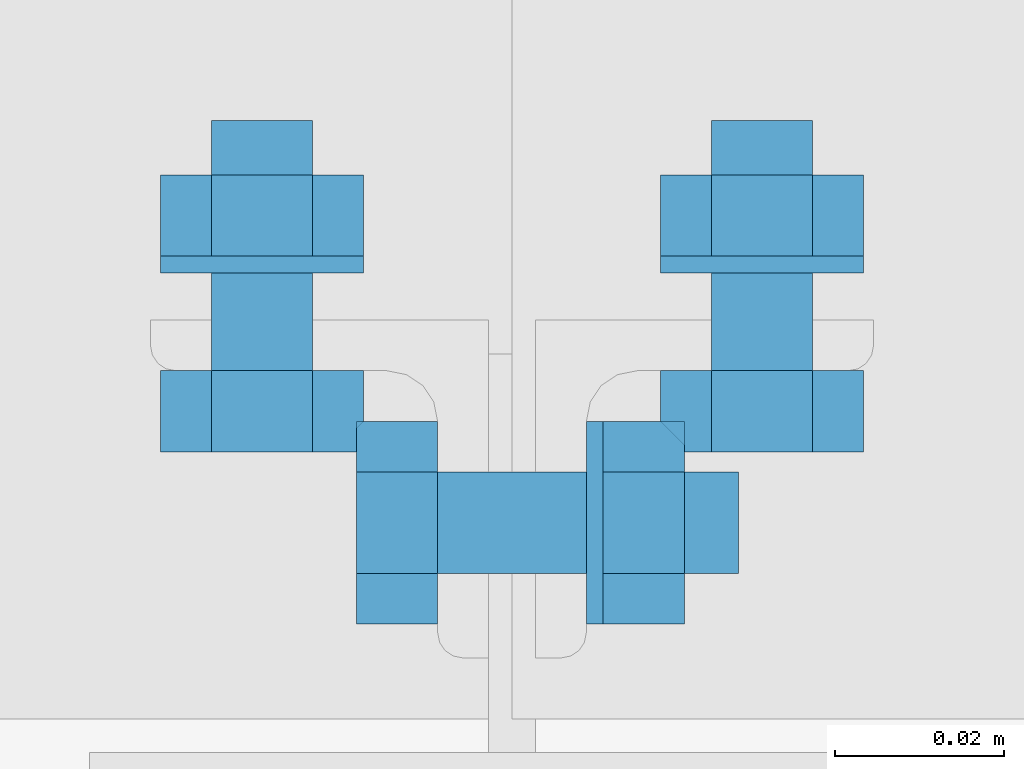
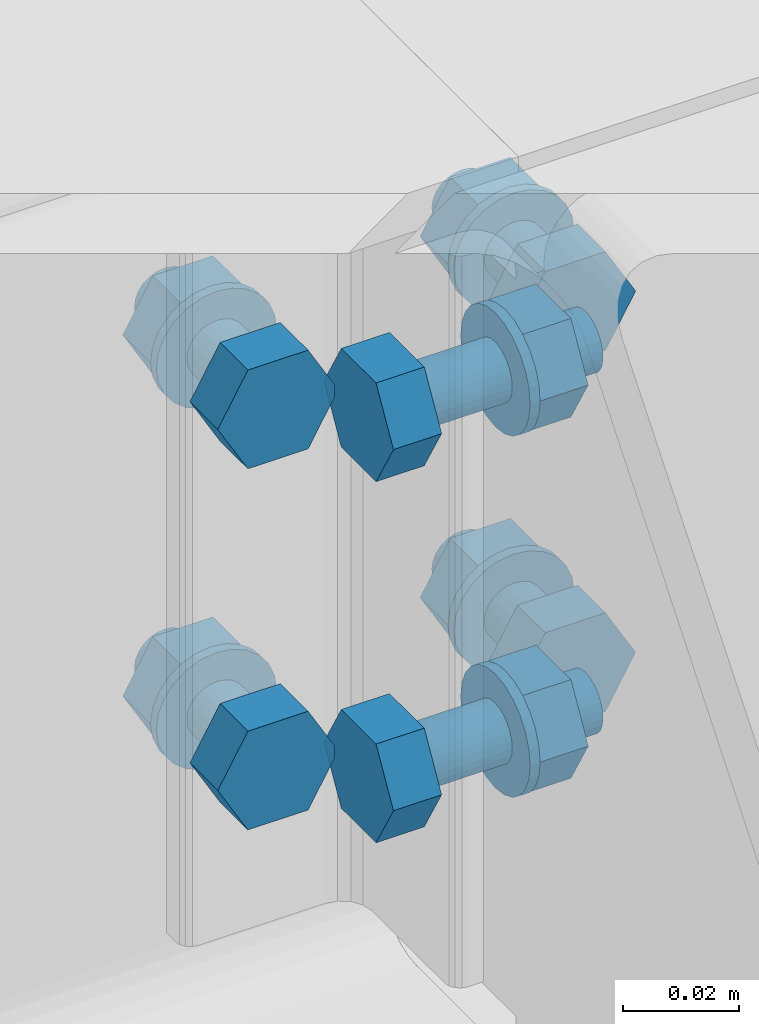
# One storey, part 67 of 84: 32 mechanical fasteners.
"""IFC4 building model written with IfcOpenShell, lengths in metres."""

from ifc_helpers import new_model, si_unit, frame, origin_with_axes, place, context, project, spatial, polyline, outline, extrude, type_object, element, save


model = new_model("IFC4")

# Units and contexts
model_context = context("Model", 3, precision=1e-05, world=origin_with_axes())
ifc_project = project(units=[si_unit("LENGTHUNIT", "METRE"), si_unit("AREAUNIT", "SQUARE_METRE"), si_unit("VOLUMEUNIT", "CUBIC_METRE"), si_unit("MASSUNIT", "GRAM", prefix="KILO"), si_unit("TIMEUNIT", "SECOND"), si_unit("PLANEANGLEUNIT", "RADIAN"), si_unit("SOLIDANGLEUNIT", "STERADIAN"), si_unit("THERMODYNAMICTEMPERATUREUNIT", "DEGREE_CELSIUS")], contexts=[model_context])

# Site, building, storey
placement_1 = place(None, origin_with_axes())
site = spatial("IfcSite", under=ifc_project, at=placement_1, Name="Italia", CompositionType="ELEMENT")
building = spatial("IfcBuilding", under=site, at=placement_1, Name="Tettoia", CompositionType="ELEMENT")
storey_placement = place(None, frame((0.0, 0.0, 4.199999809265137), z_axis=(0.0, 0.0, 1.0), x_axis=(1.0, 0.0, 0.0)))
storey = spatial("IfcBuildingStorey", under=building, at=storey_placement, Name="Storey 1", CompositionType="ELEMENT", Elevation=4.199999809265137)

# Mechanical fasteners
mechanical_fastener_type_1 = type_object("IfcMechanicalFastenerType", Name="Collegamento -016_0109", PredefinedType="BOLT")
placement_2 = place(placement_1, origin_with_axes())
mechanical_fastener_1_placement = place(placement_2, origin_with_axes())
element("IfcMechanicalFastener", 1, at=mechanical_fastener_1_placement, inside=storey, type_object=mechanical_fastener_type_1, Name="Collegamento -016_0109", NominalDiameter=0.0119997, context=model_context, shape_type="SweptSolid", body=[
    extrude(outline(polyline([(0.0, 0.0), (-0.0120001, 0.0), (-0.0179996, 0.0103922), (-0.0120001, 0.0207844), (0.0, 0.0207844), (0.00600052, 0.0103922), (0.0, 0.0)])), frame((8.2812, 13.9172, 4.25161), z_axis=(-1.0, 0.0, 0.0), x_axis=(0.0, -1.0, 0.0)), (0.0, 0.0, 1.0), 0.00960064),
])
mechanical_fastener_type_2 = type_object("IfcMechanicalFastenerType", Name="Collegamento -016_0109", PredefinedType="BOLT")
mechanical_fastener_2_placement = place(placement_2, origin_with_axes())
element("IfcMechanicalFastener", 2, at=mechanical_fastener_2_placement, inside=storey, type_object=mechanical_fastener_type_2, Name="Collegamento -016_0109", NominalDiameter=0.012, context=model_context, shape_type="SweptSolid", body=[
    extrude(outline(polyline([(0.0, 0.0), (-0.000204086, -0.00155306), (-0.000802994, -0.00299978), (-0.00175667, -0.00424242), (-0.00299931, -0.00519609), (-0.00444698, -0.00579548), (-0.00599957, -0.00600004), (-0.00755215, -0.00579548), (-0.00899982, -0.00519609), (-0.0102425, -0.00424242), (-0.0111961, -0.00299978), (-0.011795, -0.00155306), (-0.0119991, 0.0), (-0.011795, 0.00155306), (-0.0111961, 0.00299978), (-0.0102425, 0.00424242), (-0.00899982, 0.00519609), (-0.00755215, 0.00579548), (-0.00599957, 0.00600004), (-0.00444698, 0.00579548), (-0.00299931, 0.00519609), (-0.00175667, 0.00424242), (-0.000802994, 0.00299978), (-0.000204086, 0.00155306), (0.0, 0.0)])), frame((8.3168, 13.9172, 4.262), z_axis=(-1.0, 0.0, 0.0), x_axis=(0.0, -1.0, 0.0)), (0.0, 0.0, 1.0), 0.0355997),
])
mechanical_fastener_type_3 = type_object("IfcMechanicalFastenerType", Name="Collegamento -016_0109", PredefinedType="BOLT")
mechanical_fastener_3_placement = place(placement_2, origin_with_axes())
element("IfcMechanicalFastener", 3, at=mechanical_fastener_3_placement, inside=storey, type_object=mechanical_fastener_type_3, Name="Collegamento -016_0109", NominalDiameter=0.0119997, context=model_context, shape_type="SweptSolid", body=[
    extrude(outline(polyline([(0.0, 0.0), (-0.0120001, 0.0), (-0.0179996, 0.0103922), (-0.0120001, 0.0207844), (0.0, 0.0207844), (0.00600052, 0.0103922), (0.0, 0.0)])), frame((8.3104, 13.9172, 4.25161), z_axis=(-1.0, 0.0, 0.0), x_axis=(0.0, -1.0, 0.0)), (0.0, 0.0, 1.0), 0.00959969),
])
mechanical_fastener_type_4 = type_object("IfcMechanicalFastenerType", Name="Collegamento -016_0109", PredefinedType="BOLT")
mechanical_fastener_4_placement = place(placement_2, origin_with_axes())
element("IfcMechanicalFastener", 4, at=mechanical_fastener_4_placement, inside=storey, type_object=mechanical_fastener_type_4, Name="Collegamento -016_0109", NominalDiameter=0.024, context=model_context, shape_type="SweptSolid", body=[
    extrude(outline(polyline([(0.0, 0.0), (-0.000409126, -0.00310564), (-0.00160789, -0.00600004), (-0.00351524, -0.00848532), (-0.00600052, -0.0103922), (-0.00889397, -0.011591), (-0.0120001, -0.0120001), (-0.0151062, -0.011591), (-0.0179996, -0.0103922), (-0.0204849, -0.00848532), (-0.0223923, -0.00600004), (-0.023591, -0.00310564), (-0.0240002, 0.0), (-0.023591, 0.00310564), (-0.0223923, 0.00600004), (-0.0204849, 0.00848532), (-0.0179996, 0.0103922), (-0.0151062, 0.011591), (-0.0120001, 0.0120001), (-0.00889397, 0.011591), (-0.00600052, 0.0103922), (-0.00351524, 0.00848532), (-0.00160789, 0.00600004), (-0.000409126, 0.00310564), (0.0, 0.0)])), frame((8.3008, 13.9112, 4.262), z_axis=(-1.0, 0.0, 0.0), x_axis=(0.0, -1.0, 0.0)), (0.0, 0.0, 1.0), 0.00200081),
])
mechanical_fastener_type_5 = type_object("IfcMechanicalFastenerType", Name="Collegamento -016_0109", PredefinedType="BOLT")
mechanical_fastener_5_placement = place(placement_2, origin_with_axes())
element("IfcMechanicalFastener", 5, at=mechanical_fastener_5_placement, inside=storey, type_object=mechanical_fastener_type_5, Name="Collegamento -016_0109", NominalDiameter=0.0119997, context=model_context, shape_type="SweptSolid", body=[
    extrude(outline(polyline([(0.0, 0.0), (-0.0120001, 0.0), (-0.0179996, 0.0103922), (-0.0120001, 0.0207844), (0.0, 0.0207844), (0.00600052, 0.0103922), (0.0, 0.0)])), frame((8.2812, 13.9172, 4.32761), z_axis=(-1.0, 0.0, 0.0), x_axis=(0.0, -1.0, 0.0)), (0.0, 0.0, 1.0), 0.00960064),
])
mechanical_fastener_type_6 = type_object("IfcMechanicalFastenerType", Name="Collegamento -016_0109", PredefinedType="BOLT")
mechanical_fastener_6_placement = place(placement_2, origin_with_axes())
element("IfcMechanicalFastener", 6, at=mechanical_fastener_6_placement, inside=storey, type_object=mechanical_fastener_type_6, Name="Collegamento -016_0109", NominalDiameter=0.012, context=model_context, shape_type="SweptSolid", body=[
    extrude(outline(polyline([(0.0, 0.0), (-0.000204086, -0.00155306), (-0.000802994, -0.00299978), (-0.00175667, -0.00424242), (-0.00299931, -0.00519609), (-0.00444698, -0.00579548), (-0.00599957, -0.00600004), (-0.00755215, -0.00579548), (-0.00899982, -0.00519609), (-0.0102425, -0.00424242), (-0.0111961, -0.00299978), (-0.011795, -0.00155306), (-0.0119991, 0.0), (-0.011795, 0.00155306), (-0.0111961, 0.00299978), (-0.0102425, 0.00424242), (-0.00899982, 0.00519609), (-0.00755215, 0.00579548), (-0.00599957, 0.00600004), (-0.00444698, 0.00579548), (-0.00299931, 0.00519609), (-0.00175667, 0.00424242), (-0.000802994, 0.00299978), (-0.000204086, 0.00155306), (0.0, 0.0)])), frame((8.3168, 13.9172, 4.338), z_axis=(-1.0, 0.0, 0.0), x_axis=(0.0, -1.0, 0.0)), (0.0, 0.0, 1.0), 0.0355997),
])
mechanical_fastener_type_7 = type_object("IfcMechanicalFastenerType", Name="Collegamento -016_0109", PredefinedType="BOLT")
mechanical_fastener_7_placement = place(placement_2, origin_with_axes())
element("IfcMechanicalFastener", 7, at=mechanical_fastener_7_placement, inside=storey, type_object=mechanical_fastener_type_7, Name="Collegamento -016_0109", NominalDiameter=0.0119997, context=model_context, shape_type="SweptSolid", body=[
    extrude(outline(polyline([(0.0, 0.0), (-0.0120001, 0.0), (-0.0179996, 0.0103922), (-0.0120001, 0.0207844), (0.0, 0.0207844), (0.00600052, 0.0103922), (0.0, 0.0)])), frame((8.3104, 13.9172, 4.32761), z_axis=(-1.0, 0.0, 0.0), x_axis=(0.0, -1.0, 0.0)), (0.0, 0.0, 1.0), 0.00959969),
])
mechanical_fastener_type_8 = type_object("IfcMechanicalFastenerType", Name="Collegamento -016_0109", PredefinedType="BOLT")
mechanical_fastener_8_placement = place(placement_2, origin_with_axes())
element("IfcMechanicalFastener", 8, at=mechanical_fastener_8_placement, inside=storey, type_object=mechanical_fastener_type_8, Name="Collegamento -016_0109", NominalDiameter=0.024, context=model_context, shape_type="SweptSolid", body=[
    extrude(outline(polyline([(0.0, 0.0), (-0.000409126, -0.00310564), (-0.00160789, -0.00600004), (-0.00351524, -0.00848532), (-0.00600052, -0.0103922), (-0.00889397, -0.011591), (-0.0120001, -0.0120001), (-0.0151062, -0.011591), (-0.0179996, -0.0103922), (-0.0204849, -0.00848532), (-0.0223923, -0.00600004), (-0.023591, -0.00310564), (-0.0240002, 0.0), (-0.023591, 0.00310564), (-0.0223923, 0.00600004), (-0.0204849, 0.00848532), (-0.0179996, 0.0103922), (-0.0151062, 0.011591), (-0.0120001, 0.0120001), (-0.00889397, 0.011591), (-0.00600052, 0.0103922), (-0.00351524, 0.00848532), (-0.00160789, 0.00600004), (-0.000409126, 0.00310564), (0.0, 0.0)])), frame((8.3008, 13.9112, 4.338), z_axis=(-1.0, 0.0, 0.0), x_axis=(0.0, -1.0, 0.0)), (0.0, 0.0, 1.0), 0.00200081),
])
mechanical_fastener_type_9 = type_object("IfcMechanicalFastenerType", Name="Collegamento -016_0109", PredefinedType="BOLT")
mechanical_fastener_9_placement = place(placement_2, origin_with_axes())
element("IfcMechanicalFastener", 9, at=mechanical_fastener_9_placement, inside=storey, type_object=mechanical_fastener_type_9, Name="Collegamento -016_0109", NominalDiameter=0.0119997, context=model_context, shape_type="SweptSolid", body=[
    extrude(outline(polyline([(0.0, 0.0), (-0.0120001, 0.0), (-0.0179996, 0.0103922), (-0.0120001, 0.0207844), (0.0, 0.0207844), (0.00600052, 0.0103922), (0.0, 0.0)])), frame((8.2812, 13.9172, 4.25161), z_axis=(-1.0, 0.0, 0.0), x_axis=(0.0, -1.0, 0.0)), (0.0, 0.0, 1.0), 0.00960064),
])
mechanical_fastener_type_10 = type_object("IfcMechanicalFastenerType", Name="Collegamento -016_0109", PredefinedType="BOLT")
mechanical_fastener_10_placement = place(placement_2, origin_with_axes())
element("IfcMechanicalFastener", 10, at=mechanical_fastener_10_placement, inside=storey, type_object=mechanical_fastener_type_10, Name="Collegamento -016_0109", NominalDiameter=0.012, context=model_context, shape_type="SweptSolid", body=[
    extrude(outline(polyline([(0.0, 0.0), (-0.000204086, -0.00155306), (-0.000802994, -0.00299978), (-0.00175667, -0.00424242), (-0.00299931, -0.00519609), (-0.00444698, -0.00579548), (-0.00599957, -0.00600004), (-0.00755215, -0.00579548), (-0.00899982, -0.00519609), (-0.0102425, -0.00424242), (-0.0111961, -0.00299978), (-0.011795, -0.00155306), (-0.0119991, 0.0), (-0.011795, 0.00155306), (-0.0111961, 0.00299978), (-0.0102425, 0.00424242), (-0.00899982, 0.00519609), (-0.00755215, 0.00579548), (-0.00599957, 0.00600004), (-0.00444698, 0.00579548), (-0.00299931, 0.00519609), (-0.00175667, 0.00424242), (-0.000802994, 0.00299978), (-0.000204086, 0.00155306), (0.0, 0.0)])), frame((8.3168, 13.9172, 4.262), z_axis=(-1.0, 0.0, 0.0), x_axis=(0.0, -1.0, 0.0)), (0.0, 0.0, 1.0), 0.0355997),
])
mechanical_fastener_type_11 = type_object("IfcMechanicalFastenerType", Name="Collegamento -016_0109", PredefinedType="BOLT")
mechanical_fastener_11_placement = place(placement_2, origin_with_axes())
element("IfcMechanicalFastener", 11, at=mechanical_fastener_11_placement, inside=storey, type_object=mechanical_fastener_type_11, Name="Collegamento -016_0109", NominalDiameter=0.0119997, context=model_context, shape_type="SweptSolid", body=[
    extrude(outline(polyline([(0.0, 0.0), (-0.0120001, 0.0), (-0.0179996, 0.0103922), (-0.0120001, 0.0207844), (0.0, 0.0207844), (0.00600052, 0.0103922), (0.0, 0.0)])), frame((8.3104, 13.9172, 4.25161), z_axis=(-1.0, 0.0, 0.0), x_axis=(0.0, -1.0, 0.0)), (0.0, 0.0, 1.0), 0.00959969),
])
mechanical_fastener_type_12 = type_object("IfcMechanicalFastenerType", Name="Collegamento -016_0109", PredefinedType="BOLT")
mechanical_fastener_12_placement = place(placement_2, origin_with_axes())
element("IfcMechanicalFastener", 12, at=mechanical_fastener_12_placement, inside=storey, type_object=mechanical_fastener_type_12, Name="Collegamento -016_0109", NominalDiameter=0.024, context=model_context, shape_type="SweptSolid", body=[
    extrude(outline(polyline([(0.0, 0.0), (-0.000409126, -0.00310564), (-0.00160789, -0.00600004), (-0.00351524, -0.00848532), (-0.00600052, -0.0103922), (-0.00889397, -0.011591), (-0.0120001, -0.0120001), (-0.0151062, -0.011591), (-0.0179996, -0.0103922), (-0.0204849, -0.00848532), (-0.0223923, -0.00600004), (-0.023591, -0.00310564), (-0.0240002, 0.0), (-0.023591, 0.00310564), (-0.0223923, 0.00600004), (-0.0204849, 0.00848532), (-0.0179996, 0.0103922), (-0.0151062, 0.011591), (-0.0120001, 0.0120001), (-0.00889397, 0.011591), (-0.00600052, 0.0103922), (-0.00351524, 0.00848532), (-0.00160789, 0.00600004), (-0.000409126, 0.00310564), (0.0, 0.0)])), frame((8.3008, 13.9112, 4.262), z_axis=(-1.0, 0.0, 0.0), x_axis=(0.0, -1.0, 0.0)), (0.0, 0.0, 1.0), 0.00200081),
])
mechanical_fastener_type_13 = type_object("IfcMechanicalFastenerType", Name="Collegamento -016_0109", PredefinedType="BOLT")
mechanical_fastener_13_placement = place(placement_2, origin_with_axes())
element("IfcMechanicalFastener", 13, at=mechanical_fastener_13_placement, inside=storey, type_object=mechanical_fastener_type_13, Name="Collegamento -016_0109", NominalDiameter=0.0119997, context=model_context, shape_type="SweptSolid", body=[
    extrude(outline(polyline([(0.0, 0.0), (-0.0120001, 0.0), (-0.0179996, 0.0103922), (-0.0120001, 0.0207844), (0.0, 0.0207844), (0.00600052, 0.0103922), (0.0, 0.0)])), frame((8.2812, 13.9172, 4.32761), z_axis=(-1.0, 0.0, 0.0), x_axis=(0.0, -1.0, 0.0)), (0.0, 0.0, 1.0), 0.00960064),
])
mechanical_fastener_type_14 = type_object("IfcMechanicalFastenerType", Name="Collegamento -016_0109", PredefinedType="BOLT")
mechanical_fastener_14_placement = place(placement_2, origin_with_axes())
element("IfcMechanicalFastener", 14, at=mechanical_fastener_14_placement, inside=storey, type_object=mechanical_fastener_type_14, Name="Collegamento -016_0109", NominalDiameter=0.012, context=model_context, shape_type="SweptSolid", body=[
    extrude(outline(polyline([(0.0, 0.0), (-0.000204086, -0.00155306), (-0.000802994, -0.00299978), (-0.00175667, -0.00424242), (-0.00299931, -0.00519609), (-0.00444698, -0.00579548), (-0.00599957, -0.00600004), (-0.00755215, -0.00579548), (-0.00899982, -0.00519609), (-0.0102425, -0.00424242), (-0.0111961, -0.00299978), (-0.011795, -0.00155306), (-0.0119991, 0.0), (-0.011795, 0.00155306), (-0.0111961, 0.00299978), (-0.0102425, 0.00424242), (-0.00899982, 0.00519609), (-0.00755215, 0.00579548), (-0.00599957, 0.00600004), (-0.00444698, 0.00579548), (-0.00299931, 0.00519609), (-0.00175667, 0.00424242), (-0.000802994, 0.00299978), (-0.000204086, 0.00155306), (0.0, 0.0)])), frame((8.3168, 13.9172, 4.338), z_axis=(-1.0, 0.0, 0.0), x_axis=(0.0, -1.0, 0.0)), (0.0, 0.0, 1.0), 0.0355997),
])
mechanical_fastener_type_15 = type_object("IfcMechanicalFastenerType", Name="Collegamento -016_0109", PredefinedType="BOLT")
mechanical_fastener_15_placement = place(placement_2, origin_with_axes())
element("IfcMechanicalFastener", 15, at=mechanical_fastener_15_placement, inside=storey, type_object=mechanical_fastener_type_15, Name="Collegamento -016_0109", NominalDiameter=0.0119997, context=model_context, shape_type="SweptSolid", body=[
    extrude(outline(polyline([(0.0, 0.0), (-0.0120001, 0.0), (-0.0179996, 0.0103922), (-0.0120001, 0.0207844), (0.0, 0.0207844), (0.00600052, 0.0103922), (0.0, 0.0)])), frame((8.3104, 13.9172, 4.32761), z_axis=(-1.0, 0.0, 0.0), x_axis=(0.0, -1.0, 0.0)), (0.0, 0.0, 1.0), 0.00959969),
])
mechanical_fastener_type_16 = type_object("IfcMechanicalFastenerType", Name="Collegamento -016_0109", PredefinedType="BOLT")
mechanical_fastener_16_placement = place(placement_2, origin_with_axes())
element("IfcMechanicalFastener", 16, at=mechanical_fastener_16_placement, inside=storey, type_object=mechanical_fastener_type_16, Name="Collegamento -016_0109", NominalDiameter=0.024, context=model_context, shape_type="SweptSolid", body=[
    extrude(outline(polyline([(0.0, 0.0), (-0.000409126, -0.00310564), (-0.00160789, -0.00600004), (-0.00351524, -0.00848532), (-0.00600052, -0.0103922), (-0.00889397, -0.011591), (-0.0120001, -0.0120001), (-0.0151062, -0.011591), (-0.0179996, -0.0103922), (-0.0204849, -0.00848532), (-0.0223923, -0.00600004), (-0.023591, -0.00310564), (-0.0240002, 0.0), (-0.023591, 0.00310564), (-0.0223923, 0.00600004), (-0.0204849, 0.00848532), (-0.0179996, 0.0103922), (-0.0151062, 0.011591), (-0.0120001, 0.0120001), (-0.00889397, 0.011591), (-0.00600052, 0.0103922), (-0.00351524, 0.00848532), (-0.00160789, 0.00600004), (-0.000409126, 0.00310564), (0.0, 0.0)])), frame((8.3008, 13.9112, 4.338), z_axis=(-1.0, 0.0, 0.0), x_axis=(0.0, -1.0, 0.0)), (0.0, 0.0, 1.0), 0.00200081),
])
mechanical_fastener_type_17 = type_object("IfcMechanicalFastenerType", Name="Collegamento -016_0109", PredefinedType="BOLT")
mechanical_fastener_17_placement = place(placement_2, origin_with_axes())
element("IfcMechanicalFastener", 17, at=mechanical_fastener_17_placement, inside=storey, type_object=mechanical_fastener_type_17, Name="Collegamento -016_0109", NominalDiameter=0.0119997, context=model_context, shape_type="SweptSolid", body=[
    extrude(outline(polyline([(0.0, 0.0), (-0.0120001, 0.0), (-0.0179996, 0.0103922), (-0.0120001, 0.0207844), (0.0, 0.0207844), (0.00600052, 0.0103922), (0.0, 0.0)])), frame((8.3256, 13.9412, 4.25161), z_axis=(0.0, -1.0, 0.0), x_axis=(1.0, 0.0, 0.0)), (0.0, 0.0, 1.0), 0.00960064),
])
mechanical_fastener_type_18 = type_object("IfcMechanicalFastenerType", Name="Collegamento -016_0109", PredefinedType="BOLT")
mechanical_fastener_18_placement = place(placement_2, origin_with_axes())
element("IfcMechanicalFastener", 18, at=mechanical_fastener_18_placement, inside=storey, type_object=mechanical_fastener_type_18, Name="Collegamento -016_0109", NominalDiameter=0.012, context=model_context, shape_type="SweptSolid", body=[
    extrude(outline(polyline([(0.0, 0.0), (-0.000204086, -0.00155306), (-0.000802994, -0.00299978), (-0.00175667, -0.00424242), (-0.00299931, -0.00519609), (-0.00444698, -0.00579548), (-0.00599957, -0.00600004), (-0.00755215, -0.00579548), (-0.00899982, -0.00519609), (-0.0102425, -0.00424242), (-0.0111961, -0.00299978), (-0.011795, -0.00155306), (-0.0119991, 0.0), (-0.011795, 0.00155306), (-0.0111961, 0.00299978), (-0.0102425, 0.00424242), (-0.00899982, 0.00519609), (-0.00755215, 0.00579548), (-0.00599957, 0.00600004), (-0.00444698, 0.00579548), (-0.00299931, 0.00519609), (-0.00175667, 0.00424242), (-0.000802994, 0.00299978), (-0.000204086, 0.00155306), (0.0, 0.0)])), frame((8.3256, 13.9708, 4.262), z_axis=(0.0, -1.0, 0.0), x_axis=(1.0, 0.0, 0.0)), (0.0, 0.0, 1.0), 0.0295992),
])
mechanical_fastener_type_19 = type_object("IfcMechanicalFastenerType", Name="Collegamento -016_0109", PredefinedType="BOLT")
mechanical_fastener_19_placement = place(placement_2, origin_with_axes())
element("IfcMechanicalFastener", 19, at=mechanical_fastener_19_placement, inside=storey, type_object=mechanical_fastener_type_19, Name="Collegamento -016_0109", NominalDiameter=0.0119997, context=model_context, shape_type="SweptSolid", body=[
    extrude(outline(polyline([(0.0, 0.0), (-0.0120001, 0.0), (-0.0179996, 0.0103922), (-0.0120001, 0.0207844), (0.0, 0.0207844), (0.00600052, 0.0103922), (0.0, 0.0)])), frame((8.3256, 13.9644, 4.25161), z_axis=(0.0, -1.0, 0.0), x_axis=(1.0, 0.0, 0.0)), (0.0, 0.0, 1.0), 0.00960064),
])
mechanical_fastener_type_20 = type_object("IfcMechanicalFastenerType", Name="Collegamento -016_0109", PredefinedType="BOLT")
mechanical_fastener_20_placement = place(placement_2, origin_with_axes())
element("IfcMechanicalFastener", 20, at=mechanical_fastener_20_placement, inside=storey, type_object=mechanical_fastener_type_20, Name="Collegamento -016_0109", NominalDiameter=0.024, context=model_context, shape_type="SweptSolid", body=[
    extrude(outline(polyline([(0.0, 0.0), (-0.000409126, -0.00310564), (-0.00160789, -0.00600004), (-0.00351524, -0.00848532), (-0.00600052, -0.0103922), (-0.00889397, -0.011591), (-0.0120001, -0.0120001), (-0.0151062, -0.011591), (-0.0179996, -0.0103922), (-0.0204849, -0.00848532), (-0.0223923, -0.00600004), (-0.023591, -0.00310564), (-0.0240002, 0.0), (-0.023591, 0.00310564), (-0.0223923, 0.00600004), (-0.0204849, 0.00848532), (-0.0179996, 0.0103922), (-0.0151062, 0.011591), (-0.0120001, 0.0120001), (-0.00889397, 0.011591), (-0.00600052, 0.0103922), (-0.00351524, 0.00848532), (-0.00160789, 0.00600004), (-0.000409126, 0.00310564), (0.0, 0.0)])), frame((8.3316, 13.9548, 4.262), z_axis=(0.0, -1.0, 0.0), x_axis=(1.0, 0.0, 0.0)), (0.0, 0.0, 1.0), 0.00199986),
])
mechanical_fastener_type_21 = type_object("IfcMechanicalFastenerType", Name="Collegamento -016_0109", PredefinedType="BOLT")
mechanical_fastener_21_placement = place(placement_2, origin_with_axes())
element("IfcMechanicalFastener", 21, at=mechanical_fastener_21_placement, inside=storey, type_object=mechanical_fastener_type_21, Name="Collegamento -016_0109", NominalDiameter=0.0119997, context=model_context, shape_type="SweptSolid", body=[
    extrude(outline(polyline([(0.0, 0.0), (-0.0120001, 0.0), (-0.0179996, 0.0103922), (-0.0120001, 0.0207844), (0.0, 0.0207844), (0.00600052, 0.0103922), (0.0, 0.0)])), frame((8.3256, 13.9412, 4.32761), z_axis=(0.0, -1.0, 0.0), x_axis=(1.0, 0.0, 0.0)), (0.0, 0.0, 1.0), 0.00960064),
])
mechanical_fastener_type_22 = type_object("IfcMechanicalFastenerType", Name="Collegamento -016_0109", PredefinedType="BOLT")
mechanical_fastener_22_placement = place(placement_2, origin_with_axes())
element("IfcMechanicalFastener", 22, at=mechanical_fastener_22_placement, inside=storey, type_object=mechanical_fastener_type_22, Name="Collegamento -016_0109", NominalDiameter=0.012, context=model_context, shape_type="SweptSolid", body=[
    extrude(outline(polyline([(0.0, 0.0), (-0.000204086, -0.00155306), (-0.000802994, -0.00299978), (-0.00175667, -0.00424242), (-0.00299931, -0.00519609), (-0.00444698, -0.00579548), (-0.00599957, -0.00600004), (-0.00755215, -0.00579548), (-0.00899982, -0.00519609), (-0.0102425, -0.00424242), (-0.0111961, -0.00299978), (-0.011795, -0.00155306), (-0.0119991, 0.0), (-0.011795, 0.00155306), (-0.0111961, 0.00299978), (-0.0102425, 0.00424242), (-0.00899982, 0.00519609), (-0.00755215, 0.00579548), (-0.00599957, 0.00600004), (-0.00444698, 0.00579548), (-0.00299931, 0.00519609), (-0.00175667, 0.00424242), (-0.000802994, 0.00299978), (-0.000204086, 0.00155306), (0.0, 0.0)])), frame((8.3256, 13.9708, 4.338), z_axis=(0.0, -1.0, 0.0), x_axis=(1.0, 0.0, 0.0)), (0.0, 0.0, 1.0), 0.0295992),
])
mechanical_fastener_type_23 = type_object("IfcMechanicalFastenerType", Name="Collegamento -016_0109", PredefinedType="BOLT")
mechanical_fastener_23_placement = place(placement_2, origin_with_axes())
element("IfcMechanicalFastener", 23, at=mechanical_fastener_23_placement, inside=storey, type_object=mechanical_fastener_type_23, Name="Collegamento -016_0109", NominalDiameter=0.0119997, context=model_context, shape_type="SweptSolid", body=[
    extrude(outline(polyline([(0.0, 0.0), (-0.0120001, 0.0), (-0.0179996, 0.0103922), (-0.0120001, 0.0207844), (0.0, 0.0207844), (0.00600052, 0.0103922), (0.0, 0.0)])), frame((8.3256, 13.9644, 4.32761), z_axis=(0.0, -1.0, 0.0), x_axis=(1.0, 0.0, 0.0)), (0.0, 0.0, 1.0), 0.00960064),
])
mechanical_fastener_type_24 = type_object("IfcMechanicalFastenerType", Name="Collegamento -016_0109", PredefinedType="BOLT")
mechanical_fastener_24_placement = place(placement_2, origin_with_axes())
element("IfcMechanicalFastener", 24, at=mechanical_fastener_24_placement, inside=storey, type_object=mechanical_fastener_type_24, Name="Collegamento -016_0109", NominalDiameter=0.024, context=model_context, shape_type="SweptSolid", body=[
    extrude(outline(polyline([(0.0, 0.0), (-0.000409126, -0.00310564), (-0.00160789, -0.00600004), (-0.00351524, -0.00848532), (-0.00600052, -0.0103922), (-0.00889397, -0.011591), (-0.0120001, -0.0120001), (-0.0151062, -0.011591), (-0.0179996, -0.0103922), (-0.0204849, -0.00848532), (-0.0223923, -0.00600004), (-0.023591, -0.00310564), (-0.0240002, 0.0), (-0.023591, 0.00310564), (-0.0223923, 0.00600004), (-0.0204849, 0.00848532), (-0.0179996, 0.0103922), (-0.0151062, 0.011591), (-0.0120001, 0.0120001), (-0.00889397, 0.011591), (-0.00600052, 0.0103922), (-0.00351524, 0.00848532), (-0.00160789, 0.00600004), (-0.000409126, 0.00310564), (0.0, 0.0)])), frame((8.3316, 13.9548, 4.338), z_axis=(0.0, -1.0, 0.0), x_axis=(1.0, 0.0, 0.0)), (0.0, 0.0, 1.0), 0.00199986),
])
mechanical_fastener_type_25 = type_object("IfcMechanicalFastenerType", Name="Collegamento -016_0109", PredefinedType="BOLT")
mechanical_fastener_25_placement = place(placement_2, origin_with_axes())
element("IfcMechanicalFastener", 25, at=mechanical_fastener_25_placement, inside=storey, type_object=mechanical_fastener_type_25, Name="Collegamento -016_0109", NominalDiameter=0.0119997, context=model_context, shape_type="SweptSolid", body=[
    extrude(outline(polyline([(0.0, 0.0), (-0.0120001, 0.0), (-0.0179996, 0.0103922), (-0.0120001, 0.0207844), (0.0, 0.0207844), (0.00600052, 0.0103922), (0.0, 0.0)])), frame((8.2544, 13.9316, 4.25161), z_axis=(0.0, 1.0, 0.0), x_axis=(-1.0, 0.0, 0.0)), (0.0, 0.0, 1.0), 0.00960064),
])
mechanical_fastener_type_26 = type_object("IfcMechanicalFastenerType", Name="Collegamento -016_0109", PredefinedType="BOLT")
mechanical_fastener_26_placement = place(placement_2, origin_with_axes())
element("IfcMechanicalFastener", 26, at=mechanical_fastener_26_placement, inside=storey, type_object=mechanical_fastener_type_26, Name="Collegamento -016_0109", NominalDiameter=0.012, context=model_context, shape_type="SweptSolid", body=[
    extrude(outline(polyline([(0.0, 0.0), (-0.000204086, -0.00155306), (-0.000802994, -0.00299978), (-0.00175667, -0.00424242), (-0.00299931, -0.00519609), (-0.00444698, -0.00579548), (-0.00599957, -0.00600004), (-0.00755215, -0.00579548), (-0.00899982, -0.00519609), (-0.0102425, -0.00424242), (-0.0111961, -0.00299978), (-0.011795, -0.00155306), (-0.0119991, 0.0), (-0.011795, 0.00155306), (-0.0111961, 0.00299978), (-0.0102425, 0.00424242), (-0.00899982, 0.00519609), (-0.00755215, 0.00579548), (-0.00599957, 0.00600004), (-0.00444698, 0.00579548), (-0.00299931, 0.00519609), (-0.00175667, 0.00424242), (-0.000802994, 0.00299978), (-0.000204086, 0.00155306), (0.0, 0.0)])), frame((8.2544, 13.9412, 4.262), z_axis=(0.0, 1.0, 0.0), x_axis=(-1.0, 0.0, 0.0)), (0.0, 0.0, 1.0), 0.0295992),
])
mechanical_fastener_type_27 = type_object("IfcMechanicalFastenerType", Name="Collegamento -016_0109", PredefinedType="BOLT")
mechanical_fastener_27_placement = place(placement_2, origin_with_axes())
element("IfcMechanicalFastener", 27, at=mechanical_fastener_27_placement, inside=storey, type_object=mechanical_fastener_type_27, Name="Collegamento -016_0109", NominalDiameter=0.0119997, context=model_context, shape_type="SweptSolid", body=[
    extrude(outline(polyline([(0.0, 0.0), (-0.0120001, 0.0), (-0.0179996, 0.0103922), (-0.0120001, 0.0207844), (0.0, 0.0207844), (0.00600052, 0.0103922), (0.0, 0.0)])), frame((8.2544, 13.9548, 4.25161), z_axis=(0.0, 1.0, 0.0), x_axis=(-1.0, 0.0, 0.0)), (0.0, 0.0, 1.0), 0.00960064),
])
mechanical_fastener_type_28 = type_object("IfcMechanicalFastenerType", Name="Collegamento -016_0109", PredefinedType="BOLT")
mechanical_fastener_28_placement = place(placement_2, origin_with_axes())
element("IfcMechanicalFastener", 28, at=mechanical_fastener_28_placement, inside=storey, type_object=mechanical_fastener_type_28, Name="Collegamento -016_0109", NominalDiameter=0.024, context=model_context, shape_type="SweptSolid", body=[
    extrude(outline(polyline([(0.0, 0.0), (-0.000409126, -0.00310564), (-0.00160789, -0.00600004), (-0.00351524, -0.00848532), (-0.00600052, -0.0103922), (-0.00889397, -0.011591), (-0.0120001, -0.0120001), (-0.0151062, -0.011591), (-0.0179996, -0.0103922), (-0.0204849, -0.00848532), (-0.0223923, -0.00600004), (-0.023591, -0.00310564), (-0.0240002, 0.0), (-0.023591, 0.00310564), (-0.0223923, 0.00600004), (-0.0204849, 0.00848532), (-0.0179996, 0.0103922), (-0.0151062, 0.011591), (-0.0120001, 0.0120001), (-0.00889397, 0.011591), (-0.00600052, 0.0103922), (-0.00351524, 0.00848532), (-0.00160789, 0.00600004), (-0.000409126, 0.00310564), (0.0, 0.0)])), frame((8.2484, 13.9528, 4.262), z_axis=(0.0, 1.0, 0.0), x_axis=(-1.0, 0.0, 0.0)), (0.0, 0.0, 1.0), 0.00199986),
])
mechanical_fastener_type_29 = type_object("IfcMechanicalFastenerType", Name="Collegamento -016_0109", PredefinedType="BOLT")
mechanical_fastener_29_placement = place(placement_2, origin_with_axes())
element("IfcMechanicalFastener", 29, at=mechanical_fastener_29_placement, inside=storey, type_object=mechanical_fastener_type_29, Name="Collegamento -016_0109", NominalDiameter=0.0119997, context=model_context, shape_type="SweptSolid", body=[
    extrude(outline(polyline([(0.0, 0.0), (-0.0120001, 0.0), (-0.0179996, 0.0103922), (-0.0120001, 0.0207844), (0.0, 0.0207844), (0.00600052, 0.0103922), (0.0, 0.0)])), frame((8.2544, 13.9316, 4.32761), z_axis=(0.0, 1.0, 0.0), x_axis=(-1.0, 0.0, 0.0)), (0.0, 0.0, 1.0), 0.00960064),
])
mechanical_fastener_type_30 = type_object("IfcMechanicalFastenerType", Name="Collegamento -016_0109", PredefinedType="BOLT")
mechanical_fastener_30_placement = place(placement_2, origin_with_axes())
element("IfcMechanicalFastener", 30, at=mechanical_fastener_30_placement, inside=storey, type_object=mechanical_fastener_type_30, Name="Collegamento -016_0109", NominalDiameter=0.012, context=model_context, shape_type="SweptSolid", body=[
    extrude(outline(polyline([(0.0, 0.0), (-0.000204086, -0.00155306), (-0.000802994, -0.00299978), (-0.00175667, -0.00424242), (-0.00299931, -0.00519609), (-0.00444698, -0.00579548), (-0.00599957, -0.00600004), (-0.00755215, -0.00579548), (-0.00899982, -0.00519609), (-0.0102425, -0.00424242), (-0.0111961, -0.00299978), (-0.011795, -0.00155306), (-0.0119991, 0.0), (-0.011795, 0.00155306), (-0.0111961, 0.00299978), (-0.0102425, 0.00424242), (-0.00899982, 0.00519609), (-0.00755215, 0.00579548), (-0.00599957, 0.00600004), (-0.00444698, 0.00579548), (-0.00299931, 0.00519609), (-0.00175667, 0.00424242), (-0.000802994, 0.00299978), (-0.000204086, 0.00155306), (0.0, 0.0)])), frame((8.2544, 13.9412, 4.338), z_axis=(0.0, 1.0, 0.0), x_axis=(-1.0, 0.0, 0.0)), (0.0, 0.0, 1.0), 0.0295992),
])
mechanical_fastener_type_31 = type_object("IfcMechanicalFastenerType", Name="Collegamento -016_0109", PredefinedType="BOLT")
mechanical_fastener_31_placement = place(placement_2, origin_with_axes())
element("IfcMechanicalFastener", 31, at=mechanical_fastener_31_placement, inside=storey, type_object=mechanical_fastener_type_31, Name="Collegamento -016_0109", NominalDiameter=0.0119997, context=model_context, shape_type="SweptSolid", body=[
    extrude(outline(polyline([(0.0, 0.0), (-0.0120001, 0.0), (-0.0179996, 0.0103922), (-0.0120001, 0.0207844), (0.0, 0.0207844), (0.00600052, 0.0103922), (0.0, 0.0)])), frame((8.2544, 13.9548, 4.32761), z_axis=(0.0, 1.0, 0.0), x_axis=(-1.0, 0.0, 0.0)), (0.0, 0.0, 1.0), 0.00960064),
])
mechanical_fastener_type_32 = type_object("IfcMechanicalFastenerType", Name="Collegamento -016_0109", PredefinedType="BOLT")
mechanical_fastener_32_placement = place(placement_2, origin_with_axes())
element("IfcMechanicalFastener", 32, at=mechanical_fastener_32_placement, inside=storey, type_object=mechanical_fastener_type_32, Name="Collegamento -016_0109", NominalDiameter=0.024, context=model_context, shape_type="SweptSolid", body=[
    extrude(outline(polyline([(0.0, 0.0), (-0.000409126, -0.00310564), (-0.00160789, -0.00600004), (-0.00351524, -0.00848532), (-0.00600052, -0.0103922), (-0.00889397, -0.011591), (-0.0120001, -0.0120001), (-0.0151062, -0.011591), (-0.0179996, -0.0103922), (-0.0204849, -0.00848532), (-0.0223923, -0.00600004), (-0.023591, -0.00310564), (-0.0240002, 0.0), (-0.023591, 0.00310564), (-0.0223923, 0.00600004), (-0.0204849, 0.00848532), (-0.0179996, 0.0103922), (-0.0151062, 0.011591), (-0.0120001, 0.0120001), (-0.00889397, 0.011591), (-0.00600052, 0.0103922), (-0.00351524, 0.00848532), (-0.00160789, 0.00600004), (-0.000409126, 0.00310564), (0.0, 0.0)])), frame((8.2484, 13.9528, 4.338), z_axis=(0.0, 1.0, 0.0), x_axis=(-1.0, 0.0, 0.0)), (0.0, 0.0, 1.0), 0.00199986),
])

save(model, "model.ifc")
